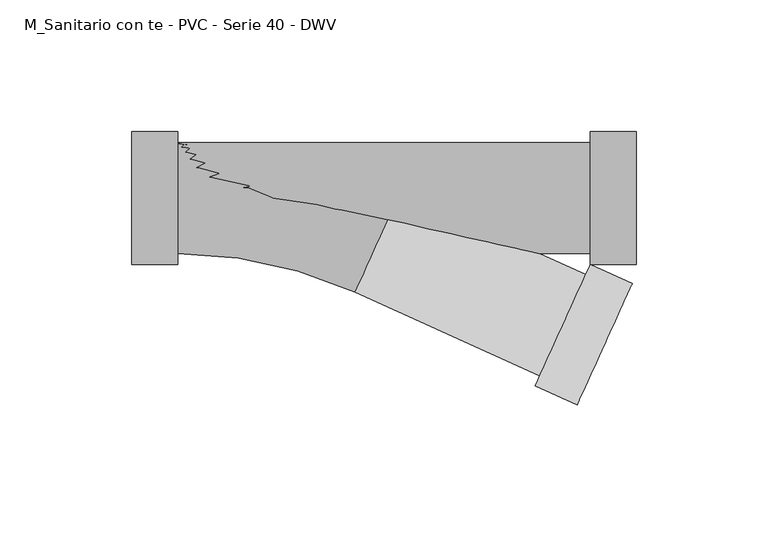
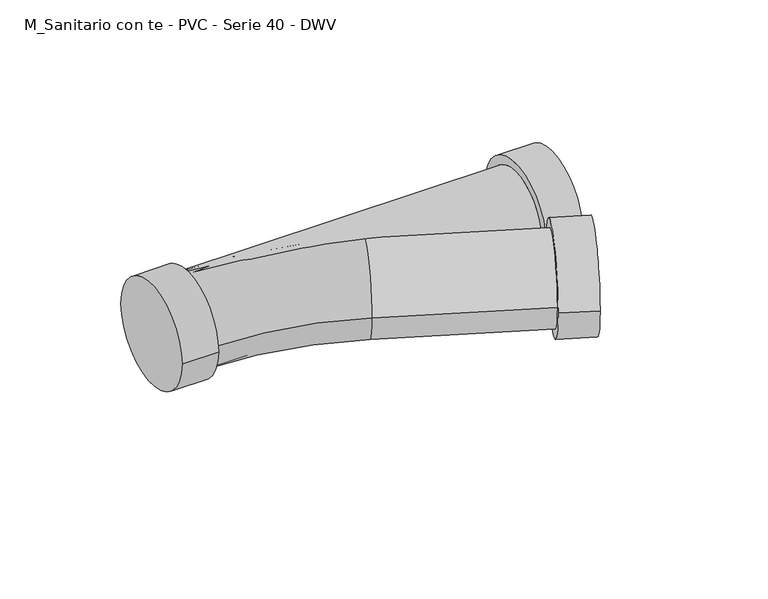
"""IFC4 building model written with IfcOpenShell, lengths in millimetres: pipe fitting geometry, M_Sanitario con te - PVC - Serie 40 - DWV : Estándar."""

from ifc_helpers import new_model, si_unit, point, frame, origin, place, context, project, spatial, circle_curve, ellipse_curve, trimmed, source, transform, mapped, element, save
from ifc_brep_helpers import plane_surface, cylinder_surface, revolved_surface, advanced_brep


def m_sanitario_con_te_pvc_serie_40_dwv_6e09cb4e(model_context):
    return source(origin(), model_context, "Body", "AdvancedBrep", [
        advanced_brep(
        [(-39.7002, -21.082, 0.0), (-39.7002, 21.082, 0.0), (27.4358252, -35.60663, 0.0), (44.8641308, 2.7868207, 0.0), (132.5305794, -32.4476988, 0.0), (111.6691075, -78.4041967, 0.0), (116.6412417, -25.2349, 0.0), (95.7797698, -71.1913979, 0.0), (114.9246586, -29.0164236, 0.0), (97.4963529, -67.4098743, 0.0)],
        [
            (0, 1, circle_curve(frame((-39.7002, 0.0, 0.0), z_axis=(-1.0, 0.0, 0.0), x_axis=(0.0, 1.0, 0.0)), 21.082)),
            (1, 0, circle_curve(frame((-39.7002, 0.0, 0.0), z_axis=(-1.0, 0.0, 0.0), x_axis=(0.0, 1.0, 0.0)), 21.082)),
            (0, 2, circle_curve(frame((-39.7002, -183.5030304, 0.0), z_axis=(0.0, 0.0, -1.0), x_axis=(0.0, 1.0, 0.0)), 162.4210304)),
            (2, 3, circle_curve(frame((36.149978, -16.4099047, 0.0), z_axis=(-0.9105742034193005, 0.41334564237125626, 0.0), x_axis=(0.41334564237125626, 0.9105742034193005, 0.0)), 21.082)),
            (3, 1, circle_curve(frame((-39.7002, -183.5030304, 0.0), z_axis=(0.0, 0.0, 1.0), x_axis=(0.0, 1.0, 0.0)), 204.5850304)),
            (3, 2, circle_curve(frame((36.149978, -16.4099047, 0.0), z_axis=(-0.9105742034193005, 0.41334564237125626, 0.0), x_axis=(0.41334564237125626, 0.9105742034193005, 0.0)), 21.082)),
            (4, 5, circle_curve(frame((122.0998435, -55.4259478, 0.0), z_axis=(0.9105742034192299, -0.41334564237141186, 0.0), x_axis=(-0.41334564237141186, -0.9105742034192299, 0.0)), 25.2349)),
            (5, 4, circle_curve(frame((122.0998435, -55.4259478, 0.0), z_axis=(0.9105742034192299, -0.41334564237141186, 0.0), x_axis=(-0.41334564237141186, -0.9105742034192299, 0.0)), 25.2349)),
            (6, 7, circle_curve(frame((106.2105057, -48.213149, 0.0), z_axis=(-0.9105742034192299, 0.41334564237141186, 0.0), x_axis=(-0.41334564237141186, -0.9105742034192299, 0.0)), 25.2349)),
            (7, 6, circle_curve(frame((106.2105057, -48.213149, 0.0), z_axis=(-0.9105742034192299, 0.41334564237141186, 0.0), x_axis=(-0.41334564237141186, -0.9105742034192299, 0.0)), 25.2349)),
            (8, 9, circle_curve(frame((106.2105057, -48.213149, 0.0), z_axis=(0.9105742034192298, -0.4133456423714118, 0.0), x_axis=(-0.4133456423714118, -0.9105742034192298, 0.0)), 21.082)),
            (9, 8, circle_curve(frame((106.2105057, -48.213149, 0.0), z_axis=(0.9105742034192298, -0.4133456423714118, 0.0), x_axis=(-0.4133456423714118, -0.9105742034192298, 0.0)), 21.082)),
            (4, 6),
            (7, 5),
            (2, 9),
            (8, 3),
        ],
        [
            plane_surface(frame((-39.7002, 0.0, 0.0), z_axis=(-1.0, 0.0, 0.0), x_axis=(0.0, 0.0, 1.0))),
            revolved_surface(trimmed(ellipse_curve(frame((-39.7002, 0.0, 0.0), z_axis=(-1.0, 0.0, 0.0), x_axis=(0.0, 1.0, 0.0)), 21.082, 21.082), [point((-39.7002, -21.082, 0.0))], [point((-39.7002, 21.082, 0.0))], True, "CARTESIAN"), (-39.7002, -183.5030304, 0.0), (0.0, 0.0, -1.0)),
            revolved_surface(trimmed(ellipse_curve(frame((-39.7002, 0.0, 0.0), z_axis=(-1.0, 0.0, 0.0), x_axis=(0.0, 1.0, 0.0)), 21.082, 21.082), [point((-39.7002, 21.082, 0.0))], [point((-39.7002, -21.082, 0.0))], True, "CARTESIAN"), (-39.7002, -183.5030304, 0.0), (0.0, 0.0, -1.0)),
            plane_surface(frame((122.0998435, -55.4259478, 0.0), z_axis=(0.9105742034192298, -0.4133456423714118, 0.0), x_axis=(0.0, 0.0, 1.0))),
            plane_surface(frame((106.2105057, -48.213149, 0.0), z_axis=(-0.9105742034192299, 0.41334564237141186, 0.0), x_axis=(0.0, 0.0, 1.0))),
            cylinder_surface(frame((122.0998435, -55.4259478, 0.0), z_axis=(0.9105742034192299, -0.41334564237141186, 0.0), x_axis=(-0.41334564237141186, -0.9105742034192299, 0.0)), 25.2349),
            cylinder_surface(frame((122.0998435, -55.4259478, 0.0), z_axis=(0.9105742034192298, -0.4133456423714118, 0.0), x_axis=(-0.4133456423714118, -0.9105742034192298, 0.0)), 21.082),
        ],
        [
            (0, [[1, 2]]),
            (1, [[-1, 3, 4, 5]]),
            (2, [[-2, -5, 6, -3]]),
            (3, [[7, 8]]),
            (4, [[9, 10], [11, 12]]),
            (5, [[-7, 13, -10, 14]]),
            (5, [[-8, -14, -9, -13]]),
            (6, [[-4, 15, -11, 16]]),
            (6, [[-6, -16, -12, -15]]),
        ],
    ),
        advanced_brep(
        [(-39.7002, -21.082, 0.0), (116.6412417, -21.082, 0.0), (116.6412417, 21.082, 0.0), (-39.7002, 21.082, 0.0), (116.6412417, -25.2349, 0.0), (116.6412417, 25.2349, 0.0), (134.0910417, -25.2349, 0.0), (134.0910417, 25.2349, 0.0), (-57.15, -25.2349, 0.0), (-57.15, 25.2349, 0.0), (-39.7002, -25.2349, 0.0), (-39.7002, 25.2349, 0.0)],
        [
            (0, 1),
            (1, 2, circle_curve(frame((116.6412417, 0.0, 0.0), z_axis=(-1.0, 0.0, 0.0), x_axis=(0.0, 1.0, 0.0)), 21.082)),
            (2, 3),
            (3, 0, circle_curve(frame((-39.7002, 0.0, 0.0), z_axis=(1.0, 0.0, 0.0), x_axis=(0.0, 1.0, 0.0)), 21.082)),
            (0, 3, circle_curve(frame((-39.7002, 0.0, 0.0), z_axis=(1.0, 0.0, 0.0), x_axis=(0.0, 1.0, 0.0)), 21.082)),
            (2, 1, circle_curve(frame((116.6412417, 0.0, 0.0), z_axis=(-1.0, 0.0, 0.0), x_axis=(0.0, 1.0, 0.0)), 21.082)),
            (4, 5, circle_curve(frame((116.6412417, 0.0, 0.0), z_axis=(-1.0, 0.0, 0.0), x_axis=(0.0, 1.0, 0.0)), 25.2349)),
            (5, 4, circle_curve(frame((116.6412417, 0.0, 0.0), z_axis=(-1.0, 0.0, 0.0), x_axis=(0.0, 1.0, 0.0)), 25.2349)),
            (6, 7, circle_curve(frame((134.0910417, 0.0, 0.0), z_axis=(1.0, 0.0, 0.0), x_axis=(0.0, 1.0, 0.0)), 25.2349)),
            (7, 6, circle_curve(frame((134.0910417, 0.0, 0.0), z_axis=(1.0, 0.0, 0.0), x_axis=(0.0, 1.0, 0.0)), 25.2349)),
            (4, 6),
            (7, 5),
            (8, 9, circle_curve(frame((-57.15, 0.0, 0.0), z_axis=(-1.0, 0.0, 0.0), x_axis=(0.0, 1.0, 0.0)), 25.2349)),
            (9, 8, circle_curve(frame((-57.15, 0.0, 0.0), z_axis=(-1.0, 0.0, 0.0), x_axis=(0.0, 1.0, 0.0)), 25.2349)),
            (10, 11, circle_curve(frame((-39.7002, 0.0, 0.0), z_axis=(1.0, 0.0, 0.0), x_axis=(0.0, 1.0, 0.0)), 25.2349)),
            (11, 10, circle_curve(frame((-39.7002, 0.0, 0.0), z_axis=(1.0, 0.0, 0.0), x_axis=(0.0, 1.0, 0.0)), 25.2349)),
            (8, 10),
            (11, 9),
        ],
        [
            cylinder_surface(frame((-39.7002, 0.0, 0.0), z_axis=(-1.0, 0.0, 0.0), x_axis=(0.0, 1.0, 0.0)), 21.082),
            plane_surface(frame((116.6412417, 0.0, 0.0), z_axis=(-1.0, 0.0, 0.0), x_axis=(0.0, 0.0, 1.0))),
            plane_surface(frame((134.0910417, 0.0, 0.0), z_axis=(1.0, 0.0, 0.0), x_axis=(0.0, 0.0, 1.0))),
            cylinder_surface(frame((116.6412417, 0.0, 0.0), z_axis=(-1.0, 0.0, 0.0), x_axis=(0.0, 1.0, 0.0)), 25.2349),
            plane_surface(frame((-57.15, 0.0, 0.0), z_axis=(-1.0, 0.0, 0.0), x_axis=(0.0, 0.0, 1.0))),
            plane_surface(frame((-39.7002, 0.0, 0.0), z_axis=(1.0, 0.0, 0.0), x_axis=(0.0, 0.0, 1.0))),
            cylinder_surface(frame((-57.15, 0.0, 0.0), z_axis=(-1.0, 0.0, 0.0), x_axis=(0.0, 1.0, 0.0)), 25.2349),
        ],
        [
            (0, [[1, 2, 3, 4]]),
            (0, [[-1, 5, -3, 6]]),
            (1, [[7, 8], [-2, -6]]),
            (2, [[9, 10]]),
            (3, [[-7, 11, -10, 12]]),
            (3, [[-8, -12, -9, -11]]),
            (4, [[13, 14]]),
            (5, [[15, 16], [-4, -5]]),
            (6, [[-13, 17, -16, 18]]),
            (6, [[-14, -18, -15, -17]]),
        ],
    ),
    ])


if __name__ == "__main__":
    model = new_model("IFC4")
    model_context = context("Model", 3, world=origin())
    ifc_project = project(units=[si_unit("LENGTHUNIT", "METRE", prefix="MILLI")], contexts=[model_context])
    site = spatial("IfcSite", under=ifc_project)
    building = spatial("IfcBuilding", under=site)
    placement = place(None, origin())
    m_sanitario_con_te_pvc_serie_40_dwv_shape = m_sanitario_con_te_pvc_serie_40_dwv_6e09cb4e(model_context)
    element("IfcPipeFitting", 1, ObjectType="M_Sanitario con te - PVC - Serie 40 - DWV : Estándar", at=placement, inside=building, context=model_context, shape_type="MappedRepresentation", body=[
        mapped(m_sanitario_con_te_pvc_serie_40_dwv_shape, transform((0.0, 0.0, 0.0), x_axis=(1.0, 0.0, 0.0), y_axis=(0.0, 1.0, 0.0), z_axis=(0.0, 0.0, 1.0))),
    ])
    save(model, "model.ifc")
